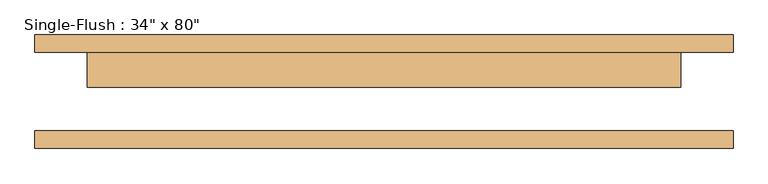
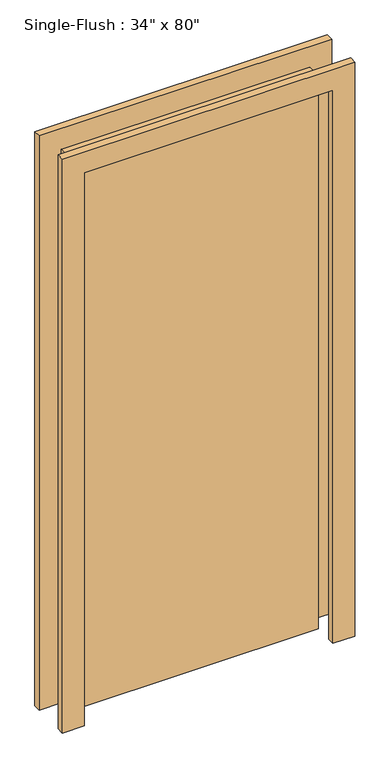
"""IFC4 building model written with IfcOpenShell, lengths in millimetres: door geometry."""

from ifc_helpers import new_model, si_unit, frame, origin, origin_with_axes, place, context, project, spatial, polyline, outline, extrude, source, transform, mapped, element, save


def door_c29894e6(model_context):
    return source(origin(), model_context, "Body", "SweptSolid", [
        extrude(outline(polyline([(2108.2, -508.0), (0.0, -508.0), (0.0, -431.8), (2032.0, -431.8), (2032.0, 431.8), (0.0, 431.8), (0.0, 508.0), (2108.2, 508.0), (2108.2, -508.0)])), frame((0.0, 57.15, 0.0), z_axis=(0.0, 1.0, 0.0), x_axis=(0.0, 0.0, 1.0)), (0.0, 0.0, 1.0), 25.4),
        extrude(outline(polyline([(2108.2, 508.0), (2108.2, -508.0), (0.0, -508.0), (0.0, -431.8), (2032.0, -431.8), (2032.0, 431.8), (0.0, 431.8), (0.0, 508.0), (2108.2, 508.0)])), frame((0.0, -82.55, 0.0), z_axis=(0.0, 1.0, 0.0), x_axis=(0.0, 0.0, 1.0)), (0.0, 0.0, 1.0), 25.4),
        extrude(outline(polyline([(431.8, 6.35), (-431.8, 6.35), (-431.8, 57.15), (431.8, 57.15), (431.8, 6.35)])), origin_with_axes(), (0.0, 0.0, 1.0), 2032.0),
    ])


if __name__ == "__main__":
    model = new_model("IFC4")
    model_context = context("Model", 3, world=origin())
    ifc_project = project(units=[si_unit("LENGTHUNIT", "METRE", prefix="MILLI")], contexts=[model_context])
    site = spatial("IfcSite", under=ifc_project)
    building = spatial("IfcBuilding", under=site)
    placement = place(None, origin())
    door_shape = door_c29894e6(model_context)
    element("IfcDoor", 1, ObjectType="Single-Flush : 34\" x 80\"", at=placement, inside=building, context=model_context, shape_type="MappedRepresentation", body=[
        mapped(door_shape, transform((0.0, 0.0, 0.0), x_axis=(1.0, 0.0, 0.0), y_axis=(0.0, 1.0, 0.0), z_axis=(0.0, 0.0, 1.0))),
    ])
    save(model, "model.ifc")
